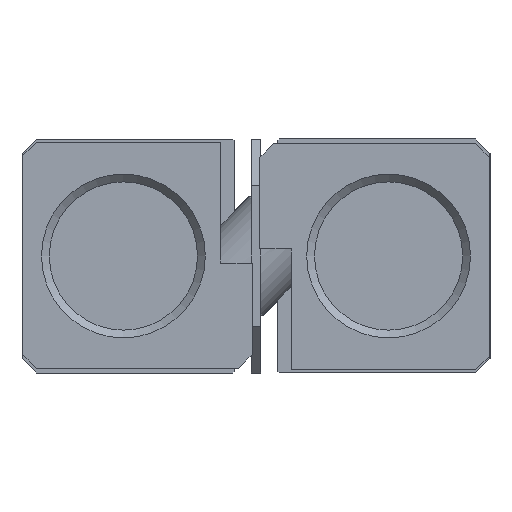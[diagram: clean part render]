
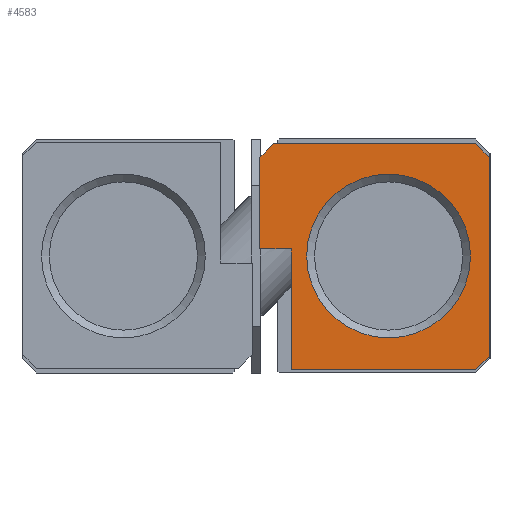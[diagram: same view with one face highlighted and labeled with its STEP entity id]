
A CAD part, left-side view. The second image highlights one B-rep face of the part: STEP entity #4583.
In plain terms, the highlighted planar face has unit normal (-1, 0, 0).
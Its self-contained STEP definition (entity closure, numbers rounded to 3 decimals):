
#185=CIRCLE('',#4881,5.25);
#413=ORIENTED_EDGE('',*,*,#1617,.F.);
#414=ORIENTED_EDGE('',*,*,#1599,.F.);
#415=ORIENTED_EDGE('',*,*,#1616,.F.);
#416=ORIENTED_EDGE('',*,*,#1614,.F.);
#417=ORIENTED_EDGE('',*,*,#1612,.F.);
#418=ORIENTED_EDGE('',*,*,#1610,.F.);
#419=ORIENTED_EDGE('',*,*,#1608,.F.);
#420=ORIENTED_EDGE('',*,*,#1606,.F.);
#421=ORIENTED_EDGE('',*,*,#1604,.F.);
#422=ORIENTED_EDGE('',*,*,#1602,.F.);
#1599=EDGE_CURVE('',#2214,#2215,#2670,.T.);
#1602=EDGE_CURVE('',#2215,#2216,#2673,.T.);
#1604=EDGE_CURVE('',#2216,#2217,#2675,.T.);
#1606=EDGE_CURVE('',#2217,#2218,#2677,.T.);
#1608=EDGE_CURVE('',#2218,#2219,#2679,.T.);
#1610=EDGE_CURVE('',#2219,#2220,#2681,.T.);
#1612=EDGE_CURVE('',#2220,#2221,#2683,.T.);
#1614=EDGE_CURVE('',#2221,#2222,#2685,.T.);
#1616=EDGE_CURVE('',#2222,#2214,#2687,.T.);
#1617=EDGE_CURVE('',#2223,#2223,#185,.T.);
#2214=VERTEX_POINT('',#6741);
#2215=VERTEX_POINT('',#6742);
#2216=VERTEX_POINT('',#6747);
#2217=VERTEX_POINT('',#6751);
#2218=VERTEX_POINT('',#6755);
#2219=VERTEX_POINT('',#6759);
#2220=VERTEX_POINT('',#6763);
#2221=VERTEX_POINT('',#6767);
#2222=VERTEX_POINT('',#6771);
#2223=VERTEX_POINT('',#6777);
#2670=LINE('',#6740,#3129);
#2673=LINE('',#6746,#3132);
#2675=LINE('',#6750,#3134);
#2677=LINE('',#6754,#3136);
#2679=LINE('',#6758,#3138);
#2681=LINE('',#6762,#3140);
#2683=LINE('',#6766,#3142);
#2685=LINE('',#6770,#3144);
#2687=LINE('',#6774,#3146);
#3129=VECTOR('',#5387,1000.);
#3132=VECTOR('',#5392,1000.);
#3134=VECTOR('',#5396,1000.);
#3136=VECTOR('',#5400,1000.);
#3138=VECTOR('',#5404,1000.);
#3140=VECTOR('',#5408,1000.);
#3142=VECTOR('',#5412,1000.);
#3144=VECTOR('',#5416,1000.);
#3146=VECTOR('',#5420,1000.);
#3567=EDGE_LOOP('',(#413));
#3568=EDGE_LOOP('',(#414,#415,#416,#417,#418,#419,#420,#421,#422));
#3986=FACE_BOUND('',#3567,.T.);
#3987=FACE_BOUND('',#3568,.T.);
#4395=PLANE('',#4880);
#4583=ADVANCED_FACE('',(#3986,#3987),#4395,.F.);
#4880=AXIS2_PLACEMENT_3D('',#6775,#5421,#5422);
#4881=AXIS2_PLACEMENT_3D('',#6776,#5423,#5424);
#5387=DIRECTION('',(0.,-1.,0.));
#5392=DIRECTION('',(0.,-0.707,-0.707));
#5396=DIRECTION('',(0.,0.,-1.));
#5400=DIRECTION('',(0.,0.707,-0.707));
#5404=DIRECTION('',(0.,1.,0.));
#5408=DIRECTION('',(0.,0.,1.));
#5412=DIRECTION('',(0.,1.,0.));
#5416=DIRECTION('',(0.,0.,1.));
#5420=DIRECTION('',(0.,-0.707,0.707));
#5421=DIRECTION('',(1.,0.,0.));
#5422=DIRECTION('',(0.,1.,0.));
#5423=DIRECTION('',(-1.,0.,0.));
#5424=DIRECTION('',(0.,0.,1.));
#6740=CARTESIAN_POINT('',(0.,-1.12,7.2));
#6741=CARTESIAN_POINT('',(0.,-1.12,7.2));
#6742=CARTESIAN_POINT('',(0.,-14.08,7.2));
#6746=CARTESIAN_POINT('',(0.,-14.08,7.2));
#6747=CARTESIAN_POINT('',(0.,-14.95,6.33));
#6750=CARTESIAN_POINT('',(0.,-14.95,6.33));
#6751=CARTESIAN_POINT('',(0.,-14.95,-6.43));
#6754=CARTESIAN_POINT('',(0.,-14.95,-6.43));
#6755=CARTESIAN_POINT('',(0.,-14.08,-7.3));
#6758=CARTESIAN_POINT('',(0.,-14.08,-7.3));
#6759=CARTESIAN_POINT('',(0.,-2.25,-7.3));
#6762=CARTESIAN_POINT('',(0.,-2.25,-7.3));
#6763=CARTESIAN_POINT('',(0.,-2.25,0.45));
#6766=CARTESIAN_POINT('',(0.,-2.25,0.45));
#6767=CARTESIAN_POINT('',(0.,-0.25,0.45));
#6770=CARTESIAN_POINT('',(0.,-0.25,0.45));
#6771=CARTESIAN_POINT('',(0.,-0.25,6.33));
#6774=CARTESIAN_POINT('',(0.,-0.25,6.33));
#6775=CARTESIAN_POINT('',(0.,0.,0.));
#6776=CARTESIAN_POINT('',(0.,-8.5,0.));
#6777=CARTESIAN_POINT('',(0.,-8.5,5.25));
